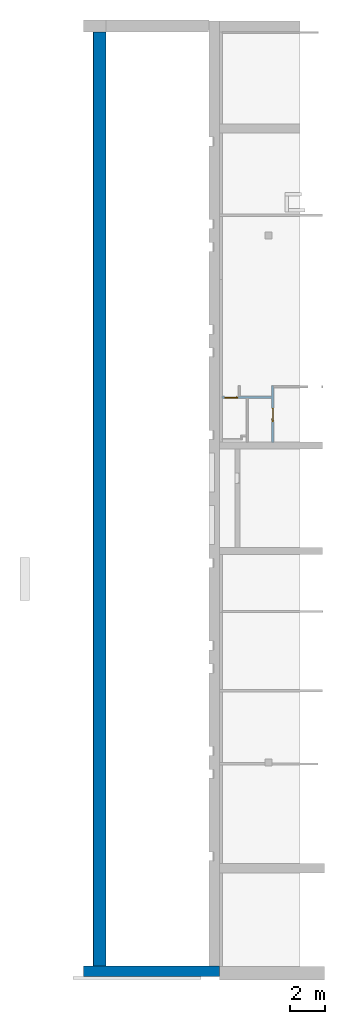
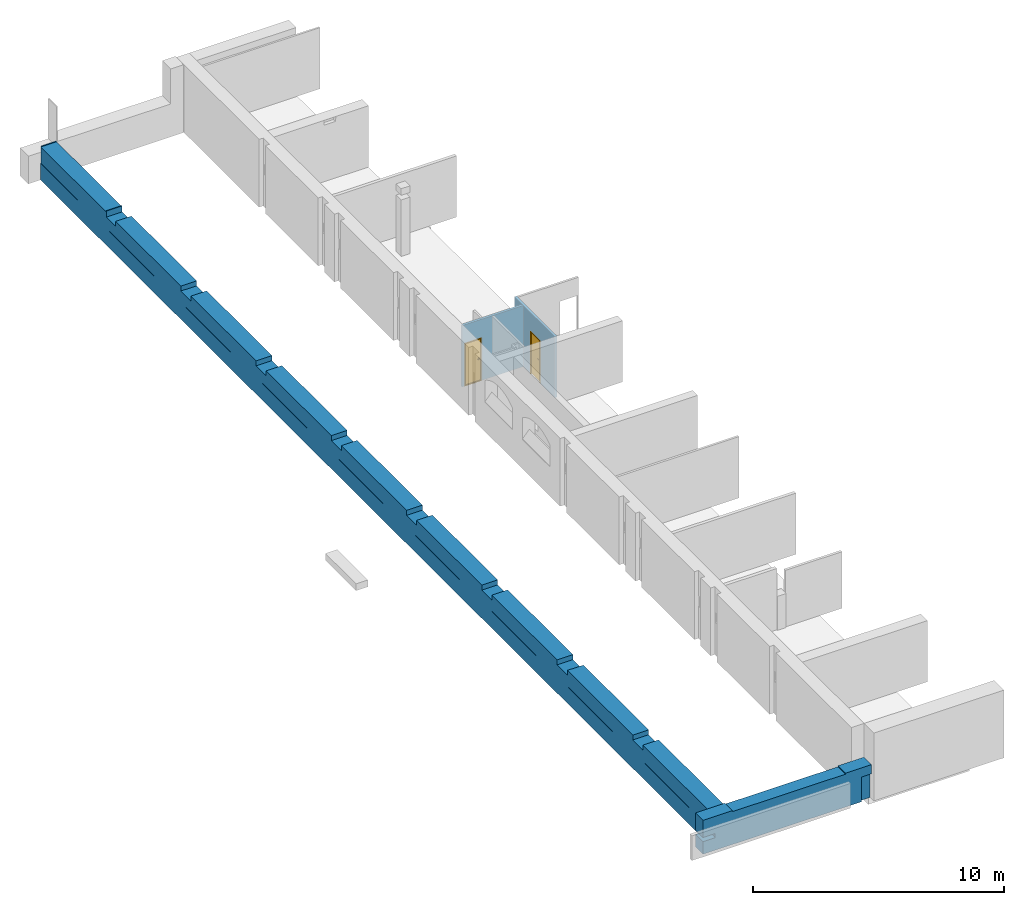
# One storey, part 10 of 11: 2 doors, 2 walls, 2 openings, plus 2 elements that do not belong to this part.
"""IFC2X3 building model written with IfcOpenShell, lengths in millimetres."""

from ifc_helpers import new_model, entity, si_unit, converted_unit, derived_unit, direction, frame, frame_2d, origin, place, context, subcontext, project, spatial, polyline, rectangle, extrude, clip, bounded_halfspace, faceted_brep, source, transform, mapped, material, layer, layer_set, layer_usage, type_object, type_shapes, element, fill, save


model = new_model("IFC2X3")

# Units and contexts
model_context = context("Model", 3, precision=0.01, world=origin(), true_north=direction((6.123031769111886e-17, 1.0)))
body_context = subcontext(model_context, "Body", "Model", "MODEL_VIEW")
ifc_project = project(units=[si_unit("LENGTHUNIT", "METRE", prefix="MILLI"), si_unit("AREAUNIT", "SQUARE_METRE"), si_unit("VOLUMEUNIT", "CUBIC_METRE"), converted_unit("PLANEANGLEUNIT", "DEGREE", entity("IfcPlaneAngleMeasure", 0.017453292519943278), si_unit("PLANEANGLEUNIT", "RADIAN"), dimensions=[0, 0, 0, 0, 0, 0, 0]), si_unit("MASSUNIT", "GRAM", prefix="KILO"), derived_unit("MASSDENSITYUNIT", [(si_unit("MASSUNIT", "GRAM", prefix="KILO"), 1), (si_unit("LENGTHUNIT", "METRE"), -3)]), derived_unit("IONCONCENTRATIONUNIT", [(si_unit("MASSUNIT", "GRAM", prefix="KILO"), 1), (si_unit("LENGTHUNIT", "METRE"), -3)]), derived_unit("MOMENTOFINERTIAUNIT", [(si_unit("LENGTHUNIT", "METRE"), 4)]), si_unit("TIMEUNIT", "SECOND"), si_unit("FREQUENCYUNIT", "HERTZ"), si_unit("THERMODYNAMICTEMPERATUREUNIT", "DEGREE_CELSIUS"), derived_unit("THERMALTRANSMITTANCEUNIT", [(si_unit("MASSUNIT", "GRAM", prefix="KILO"), 1), (si_unit("THERMODYNAMICTEMPERATUREUNIT", "KELVIN"), -1), (si_unit("TIMEUNIT", "SECOND"), -3)]), derived_unit("THERMALCONDUCTANCEUNIT", [(si_unit("MASSUNIT", "GRAM", prefix="KILO"), 1), (si_unit("THERMODYNAMICTEMPERATUREUNIT", "KELVIN"), -1), (si_unit("TIMEUNIT", "SECOND"), -3), (si_unit("LENGTHUNIT", "METRE"), 1)]), derived_unit("VOLUMETRICFLOWRATEUNIT", [(si_unit("LENGTHUNIT", "METRE", prefix="DECI"), 3), (si_unit("TIMEUNIT", "SECOND"), -1)]), derived_unit("MASSFLOWRATEUNIT", [(si_unit("MASSUNIT", "GRAM", prefix="KILO"), 1), (si_unit("TIMEUNIT", "SECOND"), -1)]), derived_unit("ROTATIONALFREQUENCYUNIT", [(si_unit("TIMEUNIT", "SECOND"), -1)]), si_unit("ELECTRICCURRENTUNIT", "AMPERE"), si_unit("ELECTRICVOLTAGEUNIT", "VOLT"), si_unit("POWERUNIT", "WATT"), si_unit("FORCEUNIT", "NEWTON", prefix="KILO"), si_unit("ILLUMINANCEUNIT", "LUX"), si_unit("LUMINOUSFLUXUNIT", "LUMEN"), si_unit("LUMINOUSINTENSITYUNIT", "CANDELA"), si_unit("ENERGYUNIT", "JOULE"), derived_unit("USERDEFINED", [(si_unit("MASSUNIT", "GRAM", prefix="KILO"), -1), (si_unit("LENGTHUNIT", "METRE"), -2), (si_unit("TIMEUNIT", "SECOND"), 3), (si_unit("LUMINOUSFLUXUNIT", "LUMEN"), 1)]), derived_unit("USERDEFINED", [(si_unit("MASSUNIT", "GRAM", prefix="KILO"), 1), (si_unit("TIMEUNIT", "SECOND"), -3), (si_unit("LENGTHUNIT", "METRE"), 3), (si_unit("ELECTRICCURRENTUNIT", "AMPERE"), -2)]), derived_unit("SOUNDPOWERUNIT", [(si_unit("MASSUNIT", "GRAM", prefix="KILO"), 1), (si_unit("TIMEUNIT", "SECOND"), -3), (si_unit("LENGTHUNIT", "METRE"), 2)]), derived_unit("SOUNDPRESSUREUNIT", [(si_unit("MASSUNIT", "GRAM", prefix="KILO"), 1), (si_unit("LENGTHUNIT", "METRE"), -1), (si_unit("TIMEUNIT", "SECOND"), -2)]), derived_unit("LINEARVELOCITYUNIT", [(si_unit("LENGTHUNIT", "METRE"), 1), (si_unit("TIMEUNIT", "SECOND"), -1)]), si_unit("PRESSUREUNIT", "PASCAL"), derived_unit("USERDEFINED", [(si_unit("MASSUNIT", "GRAM", prefix="KILO"), 1), (si_unit("LENGTHUNIT", "METRE"), -2), (si_unit("TIMEUNIT", "SECOND"), -2)]), derived_unit("LINEARFORCEUNIT", [(si_unit("MASSUNIT", "GRAM", prefix="KILO"), 1), (si_unit("TIMEUNIT", "SECOND"), -2)]), derived_unit("PLANARFORCEUNIT", [(si_unit("MASSUNIT", "GRAM", prefix="KILO"), 1), (si_unit("LENGTHUNIT", "METRE"), -1), (si_unit("TIMEUNIT", "SECOND"), -2)]), derived_unit("SPECIFICHEATCAPACITYUNIT", [(si_unit("THERMODYNAMICTEMPERATUREUNIT", "KELVIN"), -1), (si_unit("LENGTHUNIT", "METRE"), 2), (si_unit("TIMEUNIT", "SECOND"), -2)]), derived_unit("HEATFLUXDENSITYUNIT", [(si_unit("MASSUNIT", "GRAM", prefix="KILO"), 1), (si_unit("TIMEUNIT", "SECOND"), -3)]), derived_unit("HEATINGVALUEUNIT", [(si_unit("LENGTHUNIT", "METRE"), 2), (si_unit("TIMEUNIT", "SECOND"), -2)]), derived_unit("VAPORPERMEABILITYUNIT", [(si_unit("LENGTHUNIT", "METRE"), -1), (si_unit("TIMEUNIT", "SECOND"), 1)]), derived_unit("DYNAMICVISCOSITYUNIT", [(si_unit("MASSUNIT", "GRAM", prefix="KILO"), 1), (si_unit("TIMEUNIT", "SECOND"), -1), (si_unit("LENGTHUNIT", "METRE"), -1)]), derived_unit("THERMALEXPANSIONCOEFFICIENTUNIT", [(si_unit("THERMODYNAMICTEMPERATUREUNIT", "KELVIN"), -1)]), derived_unit("MODULUSOFELASTICITYUNIT", [(si_unit("MASSUNIT", "GRAM", prefix="KILO"), 1), (si_unit("LENGTHUNIT", "METRE"), -1), (si_unit("TIMEUNIT", "SECOND"), -2)]), derived_unit("ISOTHERMALMOISTURECAPACITYUNIT", [(si_unit("MASSUNIT", "GRAM", prefix="KILO"), -1), (si_unit("LENGTHUNIT", "METRE"), 3)]), derived_unit("MOISTUREDIFFUSIVITYUNIT", [(si_unit("TIMEUNIT", "SECOND"), -1), (si_unit("LENGTHUNIT", "METRE"), 2)]), derived_unit("MASSPERLENGTHUNIT", [(si_unit("MASSUNIT", "GRAM", prefix="KILO"), 1), (si_unit("LENGTHUNIT", "METRE"), -1)]), derived_unit("THERMALRESISTANCEUNIT", [(si_unit("MASSUNIT", "GRAM", prefix="KILO"), -1), (si_unit("TIMEUNIT", "SECOND"), 3), (si_unit("THERMODYNAMICTEMPERATUREUNIT", "KELVIN"), 1)]), derived_unit("ACCELERATIONUNIT", [(si_unit("LENGTHUNIT", "METRE"), 1), (si_unit("TIMEUNIT", "SECOND"), -2)]), derived_unit("ANGULARVELOCITYUNIT", [(si_unit("TIMEUNIT", "SECOND"), -1), (si_unit("PLANEANGLEUNIT", "RADIAN"), 1)]), derived_unit("LINEARSTIFFNESSUNIT", [(si_unit("MASSUNIT", "GRAM", prefix="KILO"), 1), (si_unit("TIMEUNIT", "SECOND"), -2)]), derived_unit("WARPINGCONSTANTUNIT", [(si_unit("LENGTHUNIT", "METRE"), 6)]), derived_unit("LINEARMOMENTUNIT", [(si_unit("MASSUNIT", "GRAM", prefix="KILO"), 1), (si_unit("LENGTHUNIT", "METRE"), 1), (si_unit("TIMEUNIT", "SECOND"), -2)]), derived_unit("TORQUEUNIT", [(si_unit("MASSUNIT", "GRAM", prefix="KILO"), 1), (si_unit("LENGTHUNIT", "METRE"), 2), (si_unit("TIMEUNIT", "SECOND"), -2)])], contexts=[model_context])

# Site, building, storey
site_placement = place(None, origin())
site = spatial("IfcSite", under=ifc_project, at=site_placement, Name="Default", CompositionType="ELEMENT")
building_placement = place(site_placement, origin())
building = spatial("IfcBuilding", under=site, at=building_placement, Name="Eesti Rahvusraamatukogu hoone renoveerimise projekteerimistööd", CompositionType="ELEMENT")
storey_placement = place(building_placement, frame((0.0, 0.0, -1650.0)))
storey = spatial("IfcBuildingStorey", under=building, at=storey_placement, Name="-1. korrus", CompositionType="ELEMENT", Elevation=-1650.0000000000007)

# Walls
ifc_material_1 = material(Name="ol. olev materjal")
ifc_layer_1 = layer(ifc_material_1, 600.0)
ifc_layer_set_1 = layer_set([ifc_layer_1], Name="Basic Wall:ol. olev - 600mm")
wall_type_1 = type_object("IfcWallType", Name="Basic Wall:ol. olev - 600mm", PredefinedType="STANDARD", material=ifc_layer_set_1)
wall_1_placement = place(storey_placement, frame((-36190.0, 496.0, 0.0), z_axis=(0.0, 0.0, 1.0), x_axis=(-1.0, 0.0, 0.0)))
element("IfcWall", 1, at=wall_1_placement, inside=storey, type_object=wall_type_1, Name="Basic Wall:ol. olev - 600mm", ObjectType="Basic Wall:ol. olev - 600mm", context=body_context, shape_type="Brep", body=[
    faceted_brep([(0.0, -300.0, 0.0), (0.173422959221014, -300.0, 0.0), (590.173422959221, -300.0, 0.0), (1050.0, -300.0, 0.0), (6450.0, -300.0, 0.0), (7190.0, -300.0, 0.0), (7750.0, -300.0, 0.0), (7750.0, -300.0, 610.0), (7190.0, -300.0, 610.0), (7190.0, -300.0, 810.0), (7750.0, -300.0, 810.0), (7750.0, -300.0, 1650.0), (6400.0, -300.0, 1650.0), (6400.0, -300.0, 1600.0), (1200.0, -300.0, 1600.0), (1200.0, -300.0, 1650.0), (590.173422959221, -300.0, 1650.0), (0.173422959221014, -300.0, 1650.0), (0.0, -300.0, 1650.0), (7750.0, 300.0, 0.0), (1050.0, 300.0, 0.0), (450.0, 300.0, 0.0), (450.0, 300.0, 1200.0), (0.0, 300.0, 1200.0), (0.0, 300.0, 1650.0), (1200.0, 300.0, 1650.0), (1200.0, 300.0, 1600.0), (6400.0, 300.0, 1600.0), (6400.0, 300.0, 1650.0), (7750.0, 300.0, 1650.0), (7750.0, 300.0, 1300.0), (7750.0, 300.0, 810.0), (7190.0, 300.0, 810.0), (7190.0, 300.0, 610.0), (7750.0, 300.0, 610.0), (0.0, 206.0, 0.0), (450.0, 206.0, 0.0), (0.0, -284.0, 1650.0), (0.0, 206.0, 1200.0), (450.0, 206.0, 1200.0), (1200.0, -284.0, 1650.0)], [[[0, 1, 2, 3, 4, 5, 6, 7, 8, 9, 10, 11, 12, 13, 14, 15, 16, 17, 18]], [[19, 20, 21, 22, 23, 24, 25, 26, 27, 28, 29, 30, 31, 32, 33, 34]], [[6, 5, 4, 3, 2, 1, 0, 35, 36, 21, 20, 19]], [[0, 18, 37, 24, 23, 38, 35]], [[11, 29, 28, 12]], [[38, 39, 36, 35]], [[6, 19, 34, 7]], [[33, 8, 7, 34]], [[9, 32, 31, 10]], [[8, 33, 32, 9]], [[39, 38, 23, 22]], [[14, 26, 25, 40, 15]], [[27, 13, 12, 28]], [[26, 14, 13, 27]], [[39, 22, 21, 36]], [[29, 11, 10, 31, 30]], [[24, 37, 18, 17, 16, 15, 40, 25]]]),
])
ifc_layer_2 = layer(ifc_material_1, 740.0)
ifc_layer_set_2 = layer_set([ifc_layer_2], Name="Basic Wall:ol. olev - 740mm")
wall_type_2 = type_object("IfcWallType", Name="Basic Wall:ol. olev - 740mm", PredefinedType="STANDARD", material=ifc_layer_set_2)
wall_2_placement = place(storey_placement, frame((-43010.0, 796.0, 0.0), z_axis=(0.0, 0.0, 1.0), x_axis=(0.0, 1.0, 0.0)))
element("IfcWall", 2, at=wall_2_placement, inside=storey, type_object=wall_type_2, Name="Basic Wall:ol. olev - 740mm", ObjectType="Basic Wall:ol. olev - 740mm", context=body_context, shape_type="Brep", body=[
    faceted_brep([(0.0, -370.0, 0.0), (53194.37627987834, -370.0, 0.0), (53194.376279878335, -370.0, 1345.0), (53194.376279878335, -370.0, 1650.0), (53193.99999999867, -370.0, 1650.0), (53193.99999999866, -370.0, 1600.0), (47994.0, -370.0, 1600.0), (47994.0, -370.0, 1650.0), (47964.37627987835, -370.0, 1650.0), (47964.37627987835, -370.0, 1360.0), (47228.99999999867, -370.0, 1360.0), (47228.999999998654, -370.0, 1600.0), (42029.0, -370.0, 1600.0), (42029.0, -370.0, 1360.0), (41228.99999999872, -370.0, 1360.0), (41228.99999999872, -370.0, 1600.0), (36029.0, -370.0, 1600.0), (36029.0, -370.0, 1360.0), (35228.99999999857, -370.0, 1360.0), (35228.99999999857, -370.0, 1600.0), (30029.0, -370.0, 1600.0), (30029.0, -370.0, 1360.0), (29228.999999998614, -370.0, 1360.0), (29228.999999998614, -370.0, 1600.0), (24029.0, -370.0, 1600.0), (24029.0, -370.0, 1360.0), (23228.99999999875, -370.0, 1360.0), (23228.999999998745, -370.0, 1600.0), (18029.0, -370.0, 1600.0), (18029.0, -370.0, 1360.0), (17228.999999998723, -370.0, 1360.0), (17228.999999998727, -370.0, 1600.0), (12029.0, -370.0, 1600.0), (12029.0, -370.0, 1360.0), (11193.9999999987, -370.0, 1360.0), (11193.999999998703, -370.0, 1600.0), (5994.0, -370.0, 1600.0), (5994.0, -370.0, 1360.0), (5193.999999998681, -370.0, 1360.0), (5193.99999999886, -370.0, 1600.0), (0.0, -370.0, 1600.0), (53194.37627987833, 370.0, 0.0), (0.0, 370.0, 0.0), (0.0, 370.0, 610.0), (0.0, 370.0, 810.0), (0.0, 370.0, 1300.0), (14.376279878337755, 370.0, 1300.0), (14.376279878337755, 370.0, 810.0), (53194.37627987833, 370.0, 810.0), (53194.376279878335, 370.0, 610.0), (53194.37627987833, 360.0, 1650.0), (53193.99999999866, 360.0, 1650.0), (53194.37627987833, 360.0, 810.0), (0.0, 360.0, 1600.0), (0.0, 360.0, 1300.0), (53193.99999999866, 360.0, 1600.0), (47994.0, 360.0, 1600.0), (47994.0, 360.0, 1650.0), (47228.99999999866, 360.0, 1600.0), (42029.0, 360.0, 1600.0), (41228.99999999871, 360.0, 1600.0), (36029.0, 360.0, 1600.0), (35228.99999999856, 360.0, 1600.0), (30029.0, 360.0, 1600.0), (29228.999999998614, 360.0, 1600.0), (24029.0, 360.0, 1600.0), (23228.999999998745, 360.0, 1600.0), (18029.0, 360.0, 1600.0), (17228.999999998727, 360.0, 1600.0), (12029.0, 360.0, 1600.0), (11193.999999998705, 360.0, 1600.0), (5994.0, 360.0, 1600.0), (5193.999999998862, 360.0, 1600.0), (5193.999999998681, 360.0, 1360.0), (5994.0, 360.0, 1360.0), (11193.999999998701, 360.0, 1360.0), (12029.0, 360.0, 1360.0), (17228.999999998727, 360.0, 1360.0), (18029.0, 360.0, 1360.0), (23228.99999999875, 360.0, 1360.0), (24029.0, 360.0, 1360.0), (29228.999999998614, 360.0, 1360.0), (30029.0, 360.0, 1360.0), (35228.99999999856, 360.0, 1360.0), (36029.0, 360.0, 1360.0), (41228.99999999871, 360.0, 1360.0), (42029.0, 360.0, 1360.0), (47228.99999999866, 360.0, 1360.0), (47964.37627987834, 360.0, 1360.0), (47964.37627987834, 360.0, 1650.0), (14.37627987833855, 360.0, 1300.0), (14.37627987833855, 360.0, 810.0)], [[[0, 1, 2, 3, 4, 5, 6, 7, 8, 9, 10, 11, 12, 13, 14, 15, 16, 17, 18, 19, 20, 21, 22, 23, 24, 25, 26, 27, 28, 29, 30, 31, 32, 33, 34, 35, 36, 37, 38, 39, 40]], [[41, 42, 43, 44, 45, 46, 47, 48, 49]], [[1, 0, 42, 41]], [[4, 3, 50, 51]], [[3, 2, 1, 41, 49, 48, 52, 50]], [[42, 0, 40, 53, 54, 45, 44, 43]], [[5, 4, 51, 55]], [[7, 6, 56, 57]], [[6, 5, 55, 56]], [[12, 11, 58, 59]], [[16, 15, 60, 61]], [[20, 19, 62, 63]], [[24, 23, 64, 65]], [[28, 27, 66, 67]], [[32, 31, 68, 69]], [[36, 35, 70, 71]], [[40, 39, 72, 53]], [[38, 73, 72, 39]], [[73, 38, 37, 74]], [[74, 37, 36, 71]], [[34, 75, 70, 35]], [[75, 34, 33, 76]], [[76, 33, 32, 69]], [[30, 77, 68, 31]], [[77, 30, 29, 78]], [[78, 29, 28, 67]], [[26, 79, 66, 27]], [[79, 26, 25, 80]], [[80, 25, 24, 65]], [[22, 81, 64, 23]], [[81, 22, 21, 82]], [[82, 21, 20, 63]], [[18, 83, 62, 19]], [[83, 18, 17, 84]], [[84, 17, 16, 61]], [[14, 85, 60, 15]], [[85, 14, 13, 86]], [[86, 13, 12, 59]], [[10, 87, 58, 11]], [[87, 10, 9, 88]], [[88, 9, 8, 89]], [[54, 90, 46, 45]], [[91, 52, 48, 47]], [[91, 47, 46, 90]], [[52, 91, 90, 54, 53, 72, 73, 74, 71, 70, 75, 76, 69, 68, 77, 78, 67, 66, 79, 80, 65, 64, 81, 82, 63, 62, 83, 84, 61, 60, 85, 86, 59, 58, 87, 88, 89, 57, 56, 55, 51, 50]], [[89, 8, 7, 57]]]),
])

# Wall, opening, door
ifc_material_2 = material(Name="EST. Müüritis. Väikeplokk. Poorbetoonplokk")
ifc_layer_3 = layer(ifc_material_2, 100.0)
ifc_layer_set_3 = layer_set([ifc_layer_3], Name="Basic Wall:SS-70 - 100 poorbetoon")
ifc_layer_usage_1 = layer_usage(ifc_layer_set_3, "AXIS2", "NEGATIVE", 50.0)
wall_type_3 = type_object("IfcWallType", Name="Basic Wall:SS-70 - 100 poorbetoon", PredefinedType="STANDARD", material=ifc_layer_set_3)
wall_3_placement = place(storey_placement, frame((-36025.17342295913, 33175.44029192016, 0.0)))
wall_3 = element("IfcWallStandardCase", 3, at=wall_3_placement, inside=storey, type_object=wall_type_3, material=ifc_layer_usage_1, Name="Basic Wall:SS-70 - 100 poorbetoon", ObjectType="Basic Wall:SS-70 - 100 poorbetoon", context=body_context, shape_type="Clipping", body=[
    clip(extrude(rectangle(XDim=2824.749790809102, YDim=100.00000000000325, at=frame_2d((1412.374895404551, -7.105427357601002e-15), x_axis=(-1.0, 0.0))), origin(), (0.0, 0.0, 1.0), 2980.000000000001), bounded_halfspace(frame((0.0, -50.0, 2980.0), z_axis=(0.0, 0.0, 1.0), x_axis=(0.0, -1.0, 0.0)), False, frame((0.0, -50.0, 2980.0)), polyline([(0.0, 0.0), (1371.5763678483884, 0.0), (1471.5763678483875, 0.0), (2824.7497908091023, 0.0), (2824.749790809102, 100.0), (1010.0, 100.0), (910.0, 100.0), (0.0, 100.0), (0.0, 0.0)]))),
])
opening_1_placement = place(wall_3_placement, frame((110.0, -50.0, 0.0)))
opening_1 = element("IfcOpeningElement", 4, at=opening_1_placement, cuts=wall_3, Name="SMA_D01, 1-poolne:SU-00 - puituks 800x2100 ventil. lävepakuga:1", ObjectType="Opening", context=body_context, shape_type="SweptSolid", body=[
    extrude(rectangle(XDim=2099.999999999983, YDim=799.9999999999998, at=frame_2d((1049.9999999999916, 400.0000000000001), x_axis=(1.0, 0.0))), frame((0.0, 0.0, 0.0), z_axis=(0.0, 1.0, 0.0), x_axis=(0.0, 0.0, 1.0)), (0.0, 0.0, 1.0), 100.0),
])
ifc_material_3 = material(Name="EST. Metall. Alumiinium. Värvitud.")
door_style_1 = type_object("IfcDoorStyle", Name="SMA_D01, 1-poolne:SU-00 - puituks 800x2100 ventil. lävepakuga", ConstructionType="NOTDEFINED", OperationType="NOTDEFINED", ParameterTakesPrecedence=False, Sizeable=False, material=ifc_material_3)
shared_shape_1 = source(origin(), body_context, "Body", "Brep", [
    faceted_brep([(690.0, -10.0, 1112.5), (595.0, -10.0, 1112.5), (595.0, -15.0, 1112.5), (715.0, -15.0, 1112.5), (715.0, 28.0, 1112.5), (690.0, 28.0, 1112.5), (690.0, -10.0, 1087.5), (690.0, 28.0, 1087.5), (715.0, 28.0, 1087.5), (715.0, -15.0, 1087.5), (595.0, -15.0, 1087.5), (595.0, -10.0, 1087.5)], [[[0, 1, 2, 3, 4, 5]], [[6, 7, 8, 9, 10, 11]], [[5, 7, 6, 0]], [[4, 8, 7, 5]], [[3, 9, 8, 4]], [[2, 10, 9, 3]], [[1, 11, 10, 2]], [[0, 6, 11, 1]]]),
    faceted_brep([(677.5000000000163, 28.0, 1137.5), (727.5000000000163, 28.0, 1137.5), (727.5000000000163, 30.0, 1137.5), (677.5000000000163, 30.0, 1137.5), (677.5000000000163, 28.0, 1017.5), (677.5000000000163, 30.0, 1017.5), (727.5000000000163, 30.0, 1017.5), (727.5000000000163, 28.0, 1017.5)], [[[0, 1, 2, 3]], [[4, 5, 6, 7]], [[3, 5, 4, 0]], [[2, 6, 5, 3]], [[1, 7, 6, 2]], [[0, 4, 7, 1]]]),
    faceted_brep([(690.0, 120.0, 1112.5), (690.0, 82.0, 1112.5), (715.0, 82.0, 1112.5), (715.0, 125.0, 1112.5), (595.0, 125.0, 1112.5), (595.0, 120.0, 1112.5), (690.0, 120.0, 1087.5), (595.0, 120.0, 1087.5), (595.0, 125.0, 1087.5), (715.0, 125.0, 1087.5), (715.0, 82.0, 1087.5), (690.0, 82.0, 1087.5)], [[[0, 1, 2, 3, 4, 5]], [[6, 7, 8, 9, 10, 11]], [[1, 0, 6, 11]], [[2, 1, 11, 10]], [[3, 2, 10, 9]], [[4, 3, 9, 8]], [[5, 4, 8, 7]], [[0, 5, 7, 6]]]),
    faceted_brep([(677.5000000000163, 82.0, 1137.5), (677.5000000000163, 80.0, 1137.5), (727.5000000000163, 80.0, 1137.5), (727.5000000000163, 82.0, 1137.5), (677.5000000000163, 82.0, 1017.5), (727.5000000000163, 82.0, 1017.5), (727.5000000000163, 80.0, 1017.5), (677.5000000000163, 80.0, 1017.5)], [[[0, 1, 2, 3]], [[4, 5, 6, 7]], [[1, 0, 4, 7]], [[2, 1, 7, 6]], [[3, 2, 6, 5]], [[0, 3, 5, 4]]]),
    faceted_brep([(50.0, -10.0, 30.0), (50.0, 30.0, 30.0), (50.0, 30.0, 20.0), (50.0, 30.0, 0.0), (50.0, -10.0, 0.0), (750.0, -10.0, 30.0), (750.0, -10.0, 0.0), (750.0, 30.0, 0.0), (750.0, 30.0, 20.0), (750.0, 30.0, 30.0), (35.0, 30.0, 0.0), (35.0, 80.0, 0.0), (765.0, 80.0, 0.0), (765.0, 30.0, 0.0), (35.0, 80.0, 20.0), (35.0, 30.0, 20.0), (765.0, 80.0, 20.0), (765.0, 30.0, 20.0)], [[[0, 1, 2, 3, 4]], [[5, 6, 7, 8, 9]], [[4, 6, 5, 0]], [[3, 10, 11, 12, 13, 7, 6, 4]], [[9, 8, 2, 1]], [[0, 5, 9, 1]], [[14, 11, 10, 15]], [[16, 17, 13, 12]], [[15, 2, 8, 17, 16, 14]], [[10, 3, 2, 15]], [[14, 16, 12, 11]], [[17, 8, 7, 13]]]),
    faceted_brep([(10.0, -10.0, 0.0), (10.0, 80.0, 0.0), (35.0, 80.0, 0.0), (35.0, 30.0, 0.0), (50.0, 30.0, 0.0), (50.0, -10.0, 0.0), (50.0, -10.0, 2050.0), (750.0, -10.0, 2050.0), (750.0, -10.0, 0.0), (790.0, -10.0, 0.0), (790.0, -10.0, 2090.0), (10.0, -10.0, 2090.0), (50.0, 30.0, 2050.0), (35.0, 30.0, 2065.0), (765.0, 30.0, 2065.0), (765.0, 30.0, 0.0), (750.0, 30.0, 0.0), (750.0, 30.0, 2050.0), (35.0, 80.0, 2065.0), (10.0, 80.0, 2090.0), (790.0, 80.0, 2090.0), (790.0, 80.0, 0.0), (765.0, 80.0, 0.0), (765.0, 80.0, 2065.0)], [[[0, 1, 2, 3, 4, 5]], [[5, 6, 7, 8, 9, 10, 11, 0]], [[4, 12, 6, 5]], [[3, 13, 14, 15, 16, 17, 12, 4]], [[2, 18, 13, 3]], [[1, 19, 20, 21, 22, 23, 18, 2]], [[0, 11, 19, 1]], [[9, 21, 20, 10]], [[8, 16, 15, 22, 21, 9]], [[7, 17, 16, 8]], [[14, 23, 22, 15]], [[6, 12, 17, 7]], [[13, 18, 23, 14]], [[10, 20, 19, 11]]]),
    faceted_brep([(765.0, 30.0, 2065.0), (35.0, 30.0, 2065.0), (35.0, 30.0, 20.0), (765.0, 30.0, 20.0), (765.0, 80.0, 2065.0), (765.0, 80.0, 20.0), (35.0, 80.0, 20.0), (35.0, 80.0, 2065.0)], [[[0, 1, 2, 3]], [[4, 5, 6, 7]], [[3, 5, 4, 0]], [[2, 6, 5, 3]], [[1, 7, 6, 2]], [[0, 4, 7, 1]]]),
])
type_shapes(door_style_1, [shared_shape_1])
door_1_placement = place(opening_1_placement, origin())
door_1 = element("IfcDoor", 5, at=door_1_placement, inside=storey, type_object=door_style_1, material=ifc_material_3, Name="SMA_D01, 1-poolne:SU-00 - puituks 800x2100 ventil. lävepakuga", ObjectType="SMA_D01, 1-poolne:SU-00 - puituks 800x2100 ventil. lävepakuga", OverallHeight=2099.999999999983, OverallWidth=800.0, context=body_context, shape_type="MappedRepresentation", body=[
    mapped(shared_shape_1, transform((0.0, 0.0, 0.0), scale=1.0)),
])
fill(opening_1, door_1)

ifc_layer_usage_2 = layer_usage(ifc_layer_set_3, "AXIS2", "NEGATIVE", 50.0)
wall_4_placement = place(storey_placement, frame((-33150.42363215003, 33825.44029192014, 0.0), z_axis=(0.0, 0.0, 1.0), x_axis=(0.0, -1.0, 0.0)))
wall_4 = element("IfcWallStandardCase", 6, at=wall_4_placement, inside=storey, type_object=wall_type_3, material=ifc_layer_usage_2, Name="Basic Wall:SS-70 - 100 poorbetoon", ObjectType="Basic Wall:SS-70 - 100 poorbetoon", context=body_context, shape_type="Clipping", body=[
    clip(extrude(rectangle(XDim=3195.4402919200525, YDim=100.00000000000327, at=frame_2d((1597.7201459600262, 6.110667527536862e-13), x_axis=(-1.0, 0.0))), origin(), (0.0, 0.0, 1.0), 2980.0000000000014), bounded_halfspace(frame((0.0, -50.0, 2980.0)), False, frame((0.0, -50.0, 2980.0)), polyline([(0.0, 0.0), (600.0, 0.0), (700.0, 0.0), (3195.440291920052, 0.0), (3195.4402919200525, 100.0), (100.0, 100.0), (0.0, 100.0), (0.0, 0.0)]))),
])
opening_2_placement = place(wall_4_placement, frame((1250.0, -50.0, 0.0)))
opening_2 = element("IfcOpeningElement", 7, at=opening_2_placement, cuts=wall_4, Name="SMA_D01, 1-poolne:SU-00 - 800x2100:1", ObjectType="Opening", context=body_context, shape_type="SweptSolid", body=[
    extrude(rectangle(XDim=2099.999999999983, YDim=799.9999999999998, at=frame_2d((1049.9999999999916, 400.0000000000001), x_axis=(1.0, 0.0))), frame((0.0, 0.0, 0.0), z_axis=(0.0, 1.0, 0.0), x_axis=(0.0, 0.0, 1.0)), (0.0, 0.0, 1.0), 100.0),
])
door_style_2 = type_object("IfcDoorStyle", Name="SMA_D01, 1-poolne:SU-00 - 800x2100", ConstructionType="NOTDEFINED", OperationType="NOTDEFINED", ParameterTakesPrecedence=False, Sizeable=False, material=ifc_material_3)
shared_shape_2 = source(origin(), body_context, "Body", "Brep", [
    faceted_brep([(690.0, -10.0, 1112.5), (595.0, -10.0, 1112.5), (595.0, -15.0, 1112.5), (715.0, -15.0, 1112.5), (715.0, 28.0, 1112.5), (690.0, 28.0, 1112.5), (690.0, -10.0, 1087.5), (690.0, 28.0, 1087.5), (715.0, 28.0, 1087.5), (715.0, -15.0, 1087.5), (595.0, -15.0, 1087.5), (595.0, -10.0, 1087.5)], [[[0, 1, 2, 3, 4, 5]], [[6, 7, 8, 9, 10, 11]], [[5, 7, 6, 0]], [[4, 8, 7, 5]], [[3, 9, 8, 4]], [[2, 10, 9, 3]], [[1, 11, 10, 2]], [[0, 6, 11, 1]]]),
    faceted_brep([(677.5000000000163, 28.0, 1137.5), (727.5000000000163, 28.0, 1137.5), (727.5000000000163, 30.0, 1137.5), (677.5000000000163, 30.0, 1137.5), (677.5000000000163, 28.0, 1017.5), (677.5000000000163, 30.0, 1017.5), (727.5000000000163, 30.0, 1017.5), (727.5000000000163, 28.0, 1017.5)], [[[0, 1, 2, 3]], [[4, 5, 6, 7]], [[3, 5, 4, 0]], [[2, 6, 5, 3]], [[1, 7, 6, 2]], [[0, 4, 7, 1]]]),
    faceted_brep([(690.0, 120.0, 1112.5), (690.0, 82.0, 1112.5), (715.0, 82.0, 1112.5), (715.0, 125.0, 1112.5), (595.0, 125.0, 1112.5), (595.0, 120.0, 1112.5), (690.0, 120.0, 1087.5), (595.0, 120.0, 1087.5), (595.0, 125.0, 1087.5), (715.0, 125.0, 1087.5), (715.0, 82.0, 1087.5), (690.0, 82.0, 1087.5)], [[[0, 1, 2, 3, 4, 5]], [[6, 7, 8, 9, 10, 11]], [[1, 0, 6, 11]], [[2, 1, 11, 10]], [[3, 2, 10, 9]], [[4, 3, 9, 8]], [[5, 4, 8, 7]], [[0, 5, 7, 6]]]),
    faceted_brep([(677.5000000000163, 82.0, 1137.5), (677.5000000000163, 80.0, 1137.5), (727.5000000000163, 80.0, 1137.5), (727.5000000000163, 82.0, 1137.5), (677.5000000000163, 82.0, 1017.5), (727.5000000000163, 82.0, 1017.5), (727.5000000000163, 80.0, 1017.5), (677.5000000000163, 80.0, 1017.5)], [[[0, 1, 2, 3]], [[4, 5, 6, 7]], [[1, 0, 4, 7]], [[2, 1, 7, 6]], [[3, 2, 6, 5]], [[0, 3, 5, 4]]]),
    faceted_brep([(10.0, -10.0, 0.0), (10.0, 80.0, 0.0), (35.0, 80.0, 0.0), (35.0, 30.0, 0.0), (50.0, 30.0, 0.0), (50.0, -10.0, 0.0), (50.0, -10.0, 2050.0), (750.0, -10.0, 2050.0), (750.0, -10.0, 0.0), (790.0, -10.0, 0.0), (790.0, -10.0, 2090.0), (10.0, -10.0, 2090.0), (50.0, 30.0, 2050.0), (35.0, 30.0, 2065.0), (765.0, 30.0, 2065.0), (765.0, 30.0, 0.0), (750.0, 30.0, 0.0), (750.0, 30.0, 2050.0), (35.0, 80.0, 2065.0), (10.0, 80.0, 2090.0), (790.0, 80.0, 2090.0), (790.0, 80.0, 0.0), (765.0, 80.0, 0.0), (765.0, 80.0, 2065.0)], [[[0, 1, 2, 3, 4, 5]], [[5, 6, 7, 8, 9, 10, 11, 0]], [[4, 12, 6, 5]], [[3, 13, 14, 15, 16, 17, 12, 4]], [[2, 18, 13, 3]], [[1, 19, 20, 21, 22, 23, 18, 2]], [[0, 11, 19, 1]], [[9, 21, 20, 10]], [[8, 16, 15, 22, 21, 9]], [[7, 17, 16, 8]], [[14, 23, 22, 15]], [[6, 12, 17, 7]], [[13, 18, 23, 14]], [[10, 20, 19, 11]]]),
    faceted_brep([(765.0, 30.0, 2065.0), (35.0, 30.0, 2065.0), (35.0, 30.0, 20.0), (765.0, 30.0, 20.0), (765.0, 80.0, 2065.0), (765.0, 80.0, 20.0), (35.0, 80.0, 20.0), (35.0, 80.0, 2065.0)], [[[0, 1, 2, 3]], [[4, 5, 6, 7]], [[3, 5, 4, 0]], [[2, 6, 5, 3]], [[1, 7, 6, 2]], [[0, 4, 7, 1]]]),
])
type_shapes(door_style_2, [shared_shape_2])
door_2_placement = place(opening_2_placement, origin())
door_2 = element("IfcDoor", 8, at=door_2_placement, inside=storey, type_object=door_style_2, material=ifc_material_3, Name="SMA_D01, 1-poolne:SU-00 - 800x2100", ObjectType="SMA_D01, 1-poolne:SU-00 - 800x2100", OverallHeight=2099.999999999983, OverallWidth=800.0, context=body_context, shape_type="MappedRepresentation", body=[
    mapped(shared_shape_2, transform((0.0, 0.0, 0.0), scale=1.0)),
])
fill(opening_2, door_2)

save(model, "model.ifc")
